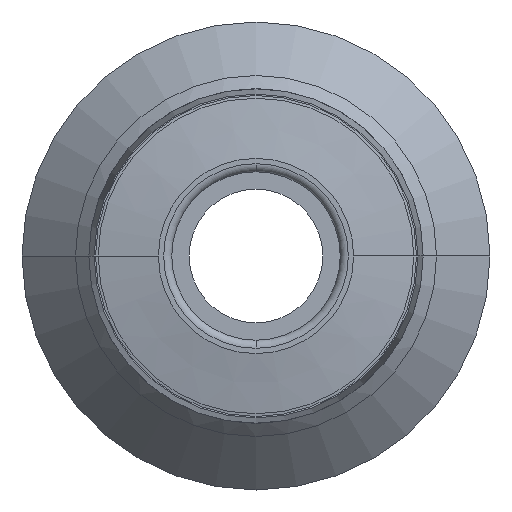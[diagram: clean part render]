
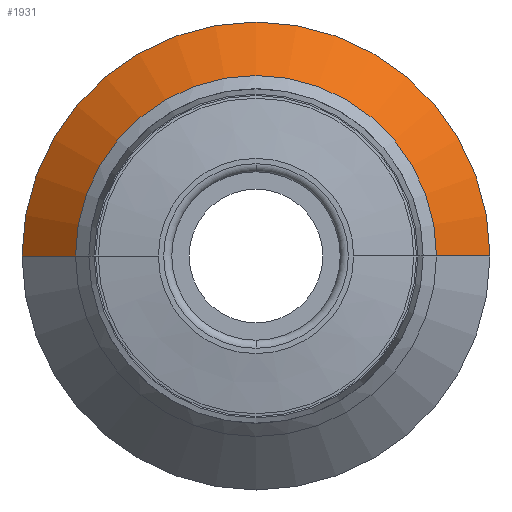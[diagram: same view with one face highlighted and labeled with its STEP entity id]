
A CAD part, front view. The second image highlights one B-rep face of the part: STEP entity #1931.
In plain terms, the highlighted conical face has half-angle 45 degrees and reference radius 7.75 mm.
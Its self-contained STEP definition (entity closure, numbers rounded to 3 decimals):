
#102 = DIRECTION ( 'NONE',  ( 0., 1., 0. ) ) ;
#103 = VERTEX_POINT ( 'NONE', #966 ) ;
#126 = DIRECTION ( 'NONE',  ( 0., 1., 0. ) ) ;
#141 = CARTESIAN_POINT ( 'NONE',  ( 0., 22., 0. ) ) ;
#163 = CIRCLE ( 'NONE', #424, 8.75 ) ;
#174 = CIRCLE ( 'NONE', #1115, 6.75 ) ;
#265 = ORIENTED_EDGE ( 'NONE', *, *, #295, .F. ) ;
#295 = EDGE_CURVE ( 'NONE', #1515, #103, #163, .T. ) ;
#377 = VECTOR ( 'NONE', #1679, 1000. ) ;
#416 = DIRECTION ( 'NONE',  ( -1., 0., 0. ) ) ;
#424 = AXIS2_PLACEMENT_3D ( 'NONE', #906, #670, #1105 ) ;
#548 = CARTESIAN_POINT ( 'NONE',  ( 6.75, 22., 0. ) ) ;
#572 = ORIENTED_EDGE ( 'NONE', *, *, #992, .T. ) ;
#632 = CARTESIAN_POINT ( 'NONE',  ( -8.75, 24., 0. ) ) ;
#645 = ORIENTED_EDGE ( 'NONE', *, *, #1260, .T. ) ;
#670 = DIRECTION ( 'NONE',  ( 0., 1., 0. ) ) ;
#690 = CARTESIAN_POINT ( 'NONE',  ( -7.75, 23., 0. ) ) ;
#731 = VERTEX_POINT ( 'NONE', #1849 ) ;
#756 = DIRECTION ( 'NONE',  ( -1., 0., 0. ) ) ;
#781 = LINE ( 'NONE', #1688, #377 ) ;
#803 = CONICAL_SURFACE ( 'NONE', #1753, 7.75, 0.785 ) ;
#906 = CARTESIAN_POINT ( 'NONE',  ( 0., 24., 0. ) ) ;
#966 = CARTESIAN_POINT ( 'NONE',  ( 8.75, 24., 0. ) ) ;
#968 = LINE ( 'NONE', #690, #1649 ) ;
#992 = EDGE_CURVE ( 'NONE', #731, #1168, #174, .T. ) ;
#997 = FACE_OUTER_BOUND ( 'NONE', #1140, .T. ) ;
#1105 = DIRECTION ( 'NONE',  ( -1., 0., 0. ) ) ;
#1110 = DIRECTION ( 'NONE',  ( -0.707, 0.707, 0. ) ) ;
#1115 = AXIS2_PLACEMENT_3D ( 'NONE', #141, #126, #756 ) ;
#1140 = EDGE_LOOP ( 'NONE', ( #572, #645, #265, #1324 ) ) ;
#1168 = VERTEX_POINT ( 'NONE', #548 ) ;
#1260 = EDGE_CURVE ( 'NONE', #1168, #103, #781, .T. ) ;
#1324 = ORIENTED_EDGE ( 'NONE', *, *, #1865, .F. ) ;
#1461 = CARTESIAN_POINT ( 'NONE',  ( 0., 23., 0. ) ) ;
#1515 = VERTEX_POINT ( 'NONE', #632 ) ;
#1649 = VECTOR ( 'NONE', #1110, 1000. ) ;
#1679 = DIRECTION ( 'NONE',  ( 0.707, 0.707, 0. ) ) ;
#1688 = CARTESIAN_POINT ( 'NONE',  ( 7.75, 23., 0. ) ) ;
#1753 = AXIS2_PLACEMENT_3D ( 'NONE', #1461, #102, #416 ) ;
#1849 = CARTESIAN_POINT ( 'NONE',  ( -6.75, 22., 0. ) ) ;
#1865 = EDGE_CURVE ( 'NONE', #731, #1515, #968, .T. ) ;
#1931 = ADVANCED_FACE ( 'NONE', ( #997 ), #803, .T. ) ;
